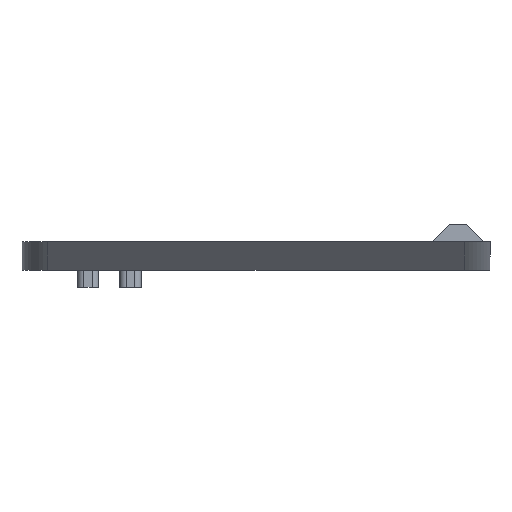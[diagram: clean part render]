
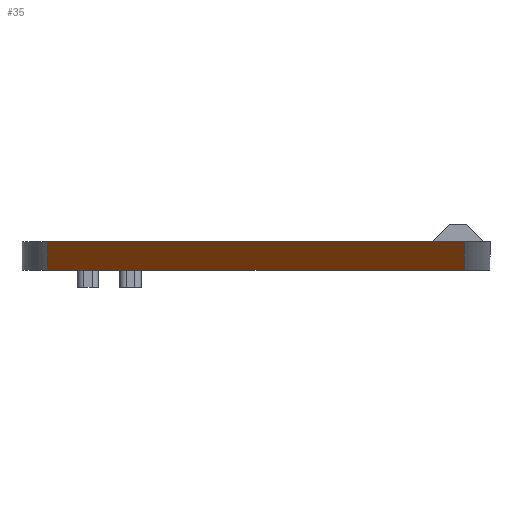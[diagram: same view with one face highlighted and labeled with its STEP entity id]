
A CAD part, left-side view. The second image highlights one B-rep face of the part: STEP entity #35.
In plain terms, the highlighted planar face has unit normal (-0.707, 0, -0.707).
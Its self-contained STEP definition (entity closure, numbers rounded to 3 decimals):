
#35 = ADVANCED_FACE('',(#36),#50,.T.);
#36 = FACE_BOUND('',#37,.T.);
#37 = EDGE_LOOP('',(#38,#73,#111,#139));
#38 = ORIENTED_EDGE('',*,*,#39,.F.);
#39 = EDGE_CURVE('',#40,#42,#44,.T.);
#40 = VERTEX_POINT('',#41);
#41 = CARTESIAN_POINT('',(32.25,41.2,-3.6));
#42 = VERTEX_POINT('',#43);
#43 = CARTESIAN_POINT('',(32.25,60.8,-3.6));
#44 = SURFACE_CURVE('',#45,(#49,#61),.PCURVE_S1.);
#45 = LINE('',#46,#47);
#46 = CARTESIAN_POINT('',(32.25,51.,-3.6));
#47 = VECTOR('',#48,1.);
#48 = DIRECTION('',(0.,1.,0.));
#49 = PCURVE('',#50,#55);
#50 = PLANE('',#51);
#51 = AXIS2_PLACEMENT_3D('',#52,#53,#54);
#52 = CARTESIAN_POINT('',(30.9,51.,-2.25));
#53 = DIRECTION('',(-0.707,0.,-0.707));
#54 = DIRECTION('',(0.,-1.,-0.));
#55 = DEFINITIONAL_REPRESENTATION('',(#56),#60);
#56 = LINE('',#57,#58);
#57 = CARTESIAN_POINT('',(0.,-1.909));
#58 = VECTOR('',#59,1.);
#59 = DIRECTION('',(-1.,0.));
#60 = ( GEOMETRIC_REPRESENTATION_CONTEXT(2) 
PARAMETRIC_REPRESENTATION_CONTEXT() REPRESENTATION_CONTEXT('2D SPACE',''
  ) );
#61 = PCURVE('',#62,#67);
#62 = PLANE('',#63);
#63 = AXIS2_PLACEMENT_3D('',#64,#65,#66);
#64 = CARTESIAN_POINT('',(33.45,41.2,-3.6));
#65 = DIRECTION('',(0.,0.,-1.));
#66 = DIRECTION('',(-1.,0.,0.));
#67 = DEFINITIONAL_REPRESENTATION('',(#68),#72);
#68 = LINE('',#69,#70);
#69 = CARTESIAN_POINT('',(1.2,9.8));
#70 = VECTOR('',#71,1.);
#71 = DIRECTION('',(0.,1.));
#72 = ( GEOMETRIC_REPRESENTATION_CONTEXT(2) 
PARAMETRIC_REPRESENTATION_CONTEXT() REPRESENTATION_CONTEXT('2D SPACE',''
  ) );
#73 = ORIENTED_EDGE('',*,*,#74,.T.);
#74 = EDGE_CURVE('',#40,#75,#77,.T.);
#75 = VERTEX_POINT('',#76);
#76 = CARTESIAN_POINT('',(30.9,41.2,-2.25));
#77 = SURFACE_CURVE('',#78,(#81,#87),.PCURVE_S1.);
#78 = B_SPLINE_CURVE_WITH_KNOTS('',1,(#79,#80),.UNSPECIFIED.,.F.,.F.,(2,
    2),(0.,1.),.PIECEWISE_BEZIER_KNOTS.);
#79 = CARTESIAN_POINT('',(32.25,41.2,-3.6));
#80 = CARTESIAN_POINT('',(30.9,41.2,-2.25));
#81 = PCURVE('',#50,#82);
#82 = DEFINITIONAL_REPRESENTATION('',(#83),#86);
#83 = B_SPLINE_CURVE_WITH_KNOTS('',1,(#84,#85),.UNSPECIFIED.,.F.,.F.,(2,
    2),(0.,1.),.PIECEWISE_BEZIER_KNOTS.);
#84 = CARTESIAN_POINT('',(9.8,-1.909));
#85 = CARTESIAN_POINT('',(9.8,0.));
#86 = ( GEOMETRIC_REPRESENTATION_CONTEXT(2) 
PARAMETRIC_REPRESENTATION_CONTEXT() REPRESENTATION_CONTEXT('2D SPACE',''
  ) );
#87 = PCURVE('',#88,#105);
#88 = B_SPLINE_SURFACE_WITH_KNOTS('',7,1,(
    (#89,#90)
    ,(#91,#92)
    ,(#93,#94)
    ,(#95,#96)
    ,(#97,#98)
    ,(#99,#100)
    ,(#101,#102)
    ,(#103,#104
    )),.UNSPECIFIED.,.F.,.F.,.F.,(8,8),(2,2),(0.,1.571),(0.,1.)
  ,.PIECEWISE_BEZIER_KNOTS.);
#89 = CARTESIAN_POINT('',(32.25,41.2,-3.6));
#90 = CARTESIAN_POINT('',(30.9,41.2,-2.25));
#91 = CARTESIAN_POINT('',(32.25,40.931,-3.6));
#92 = CARTESIAN_POINT('',(30.9,40.931,-2.25));
#93 = CARTESIAN_POINT('',(32.32,40.661,-3.6));
#94 = CARTESIAN_POINT('',(30.97,40.661,-2.25));
#95 = CARTESIAN_POINT('',(32.461,40.414,-3.6));
#96 = CARTESIAN_POINT('',(31.111,40.414,-2.25));
#97 = CARTESIAN_POINT('',(32.664,40.211,-3.6));
#98 = CARTESIAN_POINT('',(31.314,40.211,-2.25));
#99 = CARTESIAN_POINT('',(32.911,40.07,-3.6));
#100 = CARTESIAN_POINT('',(31.561,40.07,-2.25));
#101 = CARTESIAN_POINT('',(33.181,40.,-3.6));
#102 = CARTESIAN_POINT('',(31.831,40.,-2.25));
#103 = CARTESIAN_POINT('',(33.45,40.,-3.6));
#104 = CARTESIAN_POINT('',(32.1,40.,-2.25));
#105 = DEFINITIONAL_REPRESENTATION('',(#106),#110);
#106 = LINE('',#107,#108);
#107 = CARTESIAN_POINT('',(0.,0.));
#108 = VECTOR('',#109,1.);
#109 = DIRECTION('',(0.,1.));
#110 = ( GEOMETRIC_REPRESENTATION_CONTEXT(2) 
PARAMETRIC_REPRESENTATION_CONTEXT() REPRESENTATION_CONTEXT('2D SPACE',''
  ) );
#111 = ORIENTED_EDGE('',*,*,#112,.T.);
#112 = EDGE_CURVE('',#75,#113,#115,.T.);
#113 = VERTEX_POINT('',#114);
#114 = CARTESIAN_POINT('',(30.9,60.8,-2.25));
#115 = SURFACE_CURVE('',#116,(#120,#127),.PCURVE_S1.);
#116 = LINE('',#117,#118);
#117 = CARTESIAN_POINT('',(30.9,51.,-2.25));
#118 = VECTOR('',#119,1.);
#119 = DIRECTION('',(0.,1.,0.));
#120 = PCURVE('',#50,#121);
#121 = DEFINITIONAL_REPRESENTATION('',(#122),#126);
#122 = LINE('',#123,#124);
#123 = CARTESIAN_POINT('',(0.,0.));
#124 = VECTOR('',#125,1.);
#125 = DIRECTION('',(-1.,0.));
#126 = ( GEOMETRIC_REPRESENTATION_CONTEXT(2) 
PARAMETRIC_REPRESENTATION_CONTEXT() REPRESENTATION_CONTEXT('2D SPACE',''
  ) );
#127 = PCURVE('',#128,#133);
#128 = PLANE('',#129);
#129 = AXIS2_PLACEMENT_3D('',#130,#131,#132);
#130 = CARTESIAN_POINT('',(32.1,41.2,-2.25));
#131 = DIRECTION('',(0.,0.,-1.));
#132 = DIRECTION('',(-1.,0.,0.));
#133 = DEFINITIONAL_REPRESENTATION('',(#134),#138);
#134 = LINE('',#135,#136);
#135 = CARTESIAN_POINT('',(1.2,9.8));
#136 = VECTOR('',#137,1.);
#137 = DIRECTION('',(0.,1.));
#138 = ( GEOMETRIC_REPRESENTATION_CONTEXT(2) 
PARAMETRIC_REPRESENTATION_CONTEXT() REPRESENTATION_CONTEXT('2D SPACE',''
  ) );
#139 = ORIENTED_EDGE('',*,*,#140,.F.);
#140 = EDGE_CURVE('',#42,#113,#141,.T.);
#141 = SURFACE_CURVE('',#142,(#145,#151),.PCURVE_S1.);
#142 = B_SPLINE_CURVE_WITH_KNOTS('',1,(#143,#144),.UNSPECIFIED.,.F.,.F.,
  (2,2),(0.,1.),.PIECEWISE_BEZIER_KNOTS.);
#143 = CARTESIAN_POINT('',(32.25,60.8,-3.6));
#144 = CARTESIAN_POINT('',(30.9,60.8,-2.25));
#145 = PCURVE('',#50,#146);
#146 = DEFINITIONAL_REPRESENTATION('',(#147),#150);
#147 = B_SPLINE_CURVE_WITH_KNOTS('',1,(#148,#149),.UNSPECIFIED.,.F.,.F.,
  (2,2),(0.,1.),.PIECEWISE_BEZIER_KNOTS.);
#148 = CARTESIAN_POINT('',(-9.8,-1.909));
#149 = CARTESIAN_POINT('',(-9.8,0.));
#150 = ( GEOMETRIC_REPRESENTATION_CONTEXT(2) 
PARAMETRIC_REPRESENTATION_CONTEXT() REPRESENTATION_CONTEXT('2D SPACE',''
  ) );
#151 = PCURVE('',#152,#169);
#152 = B_SPLINE_SURFACE_WITH_KNOTS('',7,1,(
    (#153,#154)
    ,(#155,#156)
    ,(#157,#158)
    ,(#159,#160)
    ,(#161,#162)
    ,(#163,#164)
    ,(#165,#166)
    ,(#167,#168
    )),.UNSPECIFIED.,.F.,.F.,.F.,(8,8),(2,2),(4.712,
    6.283),(0.,1.),.PIECEWISE_BEZIER_KNOTS.);
#153 = CARTESIAN_POINT('',(33.45,62.,-3.6));
#154 = CARTESIAN_POINT('',(32.1,62.,-2.25));
#155 = CARTESIAN_POINT('',(33.181,62.,-3.6));
#156 = CARTESIAN_POINT('',(31.831,62.,-2.25));
#157 = CARTESIAN_POINT('',(32.911,61.93,-3.6));
#158 = CARTESIAN_POINT('',(31.561,61.93,-2.25));
#159 = CARTESIAN_POINT('',(32.664,61.789,-3.6));
#160 = CARTESIAN_POINT('',(31.314,61.789,-2.25));
#161 = CARTESIAN_POINT('',(32.461,61.586,-3.6));
#162 = CARTESIAN_POINT('',(31.111,61.586,-2.25));
#163 = CARTESIAN_POINT('',(32.32,61.339,-3.6));
#164 = CARTESIAN_POINT('',(30.97,61.339,-2.25));
#165 = CARTESIAN_POINT('',(32.25,61.069,-3.6));
#166 = CARTESIAN_POINT('',(30.9,61.069,-2.25));
#167 = CARTESIAN_POINT('',(32.25,60.8,-3.6));
#168 = CARTESIAN_POINT('',(30.9,60.8,-2.25));
#169 = DEFINITIONAL_REPRESENTATION('',(#170),#174);
#170 = LINE('',#171,#172);
#171 = CARTESIAN_POINT('',(6.283,0.));
#172 = VECTOR('',#173,1.);
#173 = DIRECTION('',(0.,1.));
#174 = ( GEOMETRIC_REPRESENTATION_CONTEXT(2) 
PARAMETRIC_REPRESENTATION_CONTEXT() REPRESENTATION_CONTEXT('2D SPACE',''
  ) );
